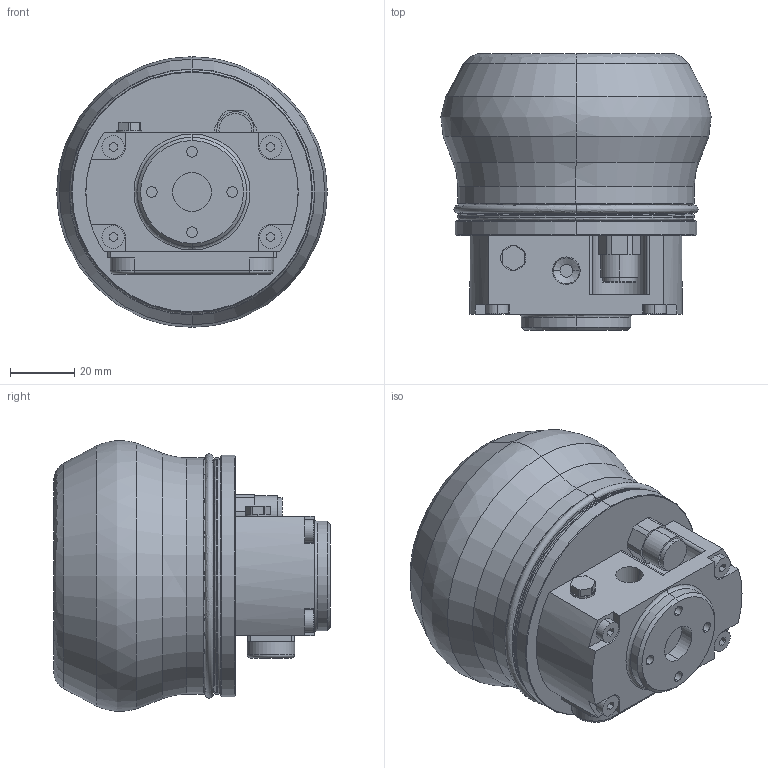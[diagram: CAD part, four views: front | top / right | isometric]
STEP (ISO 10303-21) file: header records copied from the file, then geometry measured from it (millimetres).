
FILE_DESCRIPTION( (''), '2;1');
FILE_NAME ('WS47.26068.SGB-40-##(3D参考図)_10738.stp','2022-04-06T13:51:58',(''),(''),'spGate 17.5.2','','');
FILE_SCHEMA (('AUTOMOTIVE_DESIGN'));
Length unit declared in the file: millimetre
Bounding box: 84.06 x 86 x 84.06 mm (x, y, z)
Volume: 280443.9 mm3; surface area: 39410 mm2
Topology: 1 solids, 1 shells, 276 faces, 660 edges, 418 vertices
Faces by surface type: plane 133, cylinder 75, bspline 68
Entity records: 14165 total; most frequent: CARTESIAN_POINT 2714, ORIENTED_EDGE 1320, DIRECTION 1176, COLOUR_RGB 937, PRESENTATION_STYLE_ASSIGNMENT 937, STYLED_ITEM 937, EDGE_CURVE 660, DRAUGHTING_PRE_DEFINED_CURVE_FONT 660
